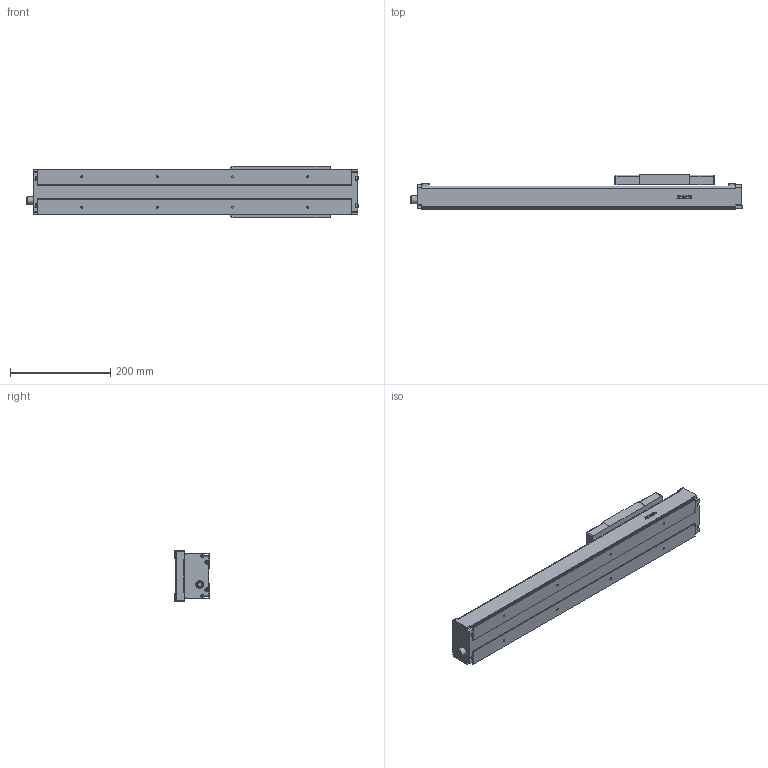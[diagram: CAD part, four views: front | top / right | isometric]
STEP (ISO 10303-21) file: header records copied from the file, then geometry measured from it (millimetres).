
FILE_DESCRIPTION(/* description */ (''),/* implementation_level */ '2;1');
FILE_NAME(/* name */ 'D:\混合母檔20191031\混和母檔\混和母檔\bin\Debug\Download\3D\KS90-5C-350AF0\KS90-5C-350AF0.stp',/* time_stamp */ '2019-11-04T14:34:28+08:00',/* author */ ('user'),/* organization */ (''),/* preprocessor_version */ 'ST-DEVELOPER v16.13',/* originating_system */ 'Autodesk Inventor 2018',/* authorisation */ '');
FILE_SCHEMA (('AUTOMOTIVE_DESIGN { 1 0 10303 214 3 1 1 }'));
Length unit declared in the file: millimetre
Products named in the file (3): KS90-5C-350AF0; KS90-F0; KS90-SL
Assembly tree (2 placements, depth 2):
  KS90-5C-350AF0
    KS90-F0
    KS90-SL
Bounding box: 661.6 x 68.5 x 102.4 mm (x, y, z)
Volume: 1161841.1 mm3; surface area: 435419.5 mm2
Topology: 3 solids, 13 shells, 1015 faces, 2782 edges, 1836 vertices
Faces by surface type: plane 563, cylinder 144, bspline 136, cone 120, torus 48, sphere 4
Full cylindrical faces by diameter (mm): 2.113 x2, 2.459 x8, 2.5 x4, 2.693 x8, 3 x12, 3.242 x6, 3.5 x8, 4 x7, 4.134 x8, 4.5 x8, 4.917 x4, 5.5 x12, 6 x3, 7 x4, 8 x2, 10.437 x1, 11 x1, 11.5 x1, 14 x1, 15.538 x1, 28 x1, 30 x1
Entity records: 37793 total; most frequent: CARTESIAN_POINT 14038, ORIENTED_EDGE 5006, DIRECTION 4436, EDGE_CURVE 2503, VERTEX_POINT 1725, LINE 1498, VECTOR 1498, AXIS2_PLACEMENT_3D 1469
